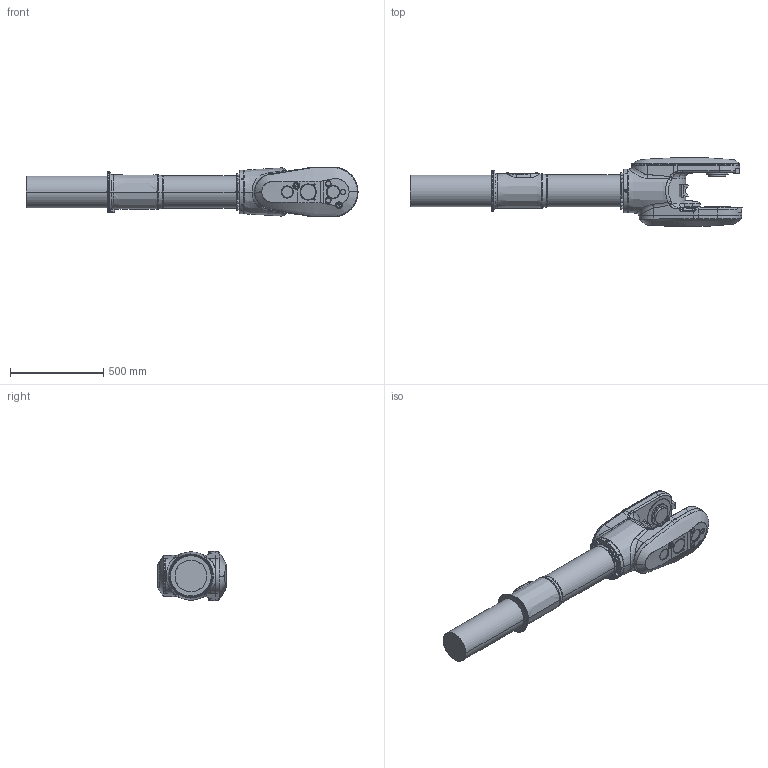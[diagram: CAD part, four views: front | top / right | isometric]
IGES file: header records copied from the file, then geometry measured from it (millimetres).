
Start section: SolidWorks IGES file using analytic representation for surfaces
Global section: file name: C:\Users\seamsto1\Desktop\Lättvikt\IRB6710_200kg-295_OC_00_SW_J\IRB6710_200kg-295_OC_00_IGES_J\IRB6710_200kg-295_OC_00_LINK04_CAD.IGS; native system: SolidWorks 2020; preprocessor: SolidWorks 2020; author: SEAMSTO1; date: 230510.101540; units: millimetre
Bounding box: 1781.63 x 368.88 x 267.05 mm (x, y, z)
Surface area: 1476580.1 mm2 (no closed solid volume)
Topology: 0 solids, 0 shells, 705 faces, 11983 edges, 11963 vertices
Faces by surface type: bspline 383, revolution 322
